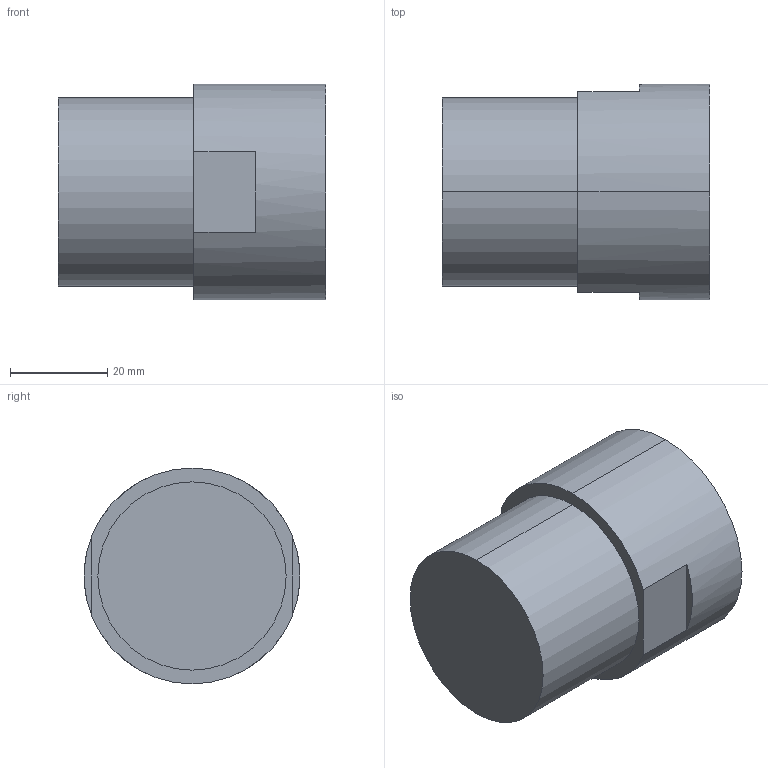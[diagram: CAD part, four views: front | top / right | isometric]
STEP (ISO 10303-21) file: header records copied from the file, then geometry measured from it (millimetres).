
FILE_DESCRIPTION (( 'STEP AP214' ), '1' );
FILE_NAME ('12-fnpt.STEP', '2012-12-03T16:36:02', ( '' ), ( '' ), 'SwSTEP 2.0', 'SolidWorks 2012', '' );
FILE_SCHEMA (( 'AUTOMOTIVE_DESIGN' ));
Length unit declared in the file: inch
Products named in the file (1): 12-fnpt
Bounding box: 55.12 x 44.45 x 44.45 mm (x, y, z)
Volume: 66507.7 mm3; surface area: 11647 mm2
Topology: 1 solids, 1 shells, 16 faces, 34 edges, 22 vertices
Faces by surface type: plane 8, cone 4, cylinder 4
Entity records: 519 total; most frequent: DIRECTION 86, CARTESIAN_POINT 73, ORIENTED_EDGE 68, AXIS2_PLACEMENT_3D 35, EDGE_CURVE 34, VERTEX_POINT 22, CIRCLE 18, EDGE_LOOP 18
